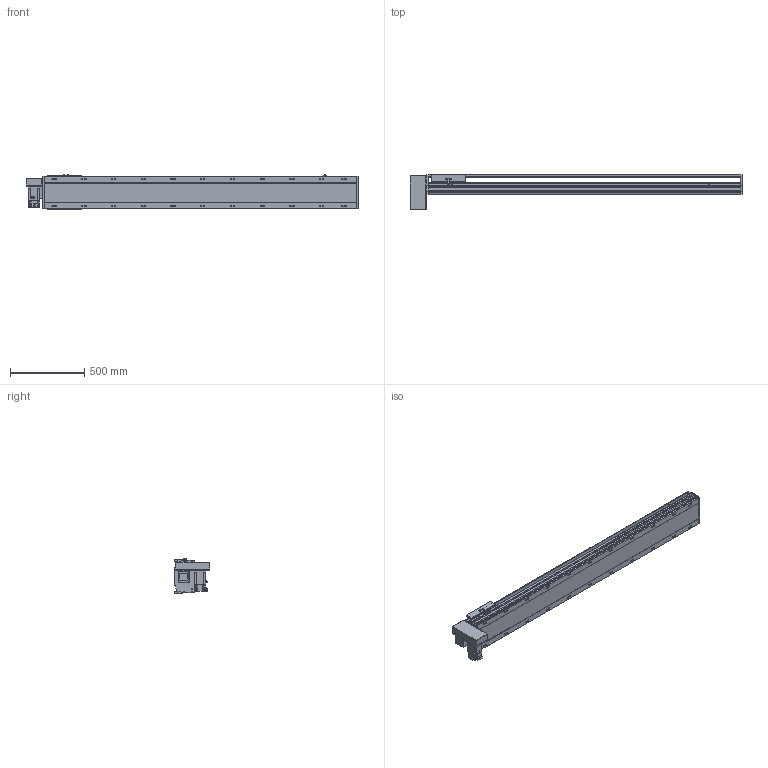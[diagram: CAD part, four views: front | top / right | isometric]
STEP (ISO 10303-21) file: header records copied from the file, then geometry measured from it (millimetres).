
FILE_DESCRIPTION(/* description */ ('STEP AP214'),/* implementation_level */ '2;1');
FILE_NAME(/* name */ 'PBS220-P40-S1750-RD-T75-C1-N(0)',/* time_stamp */ '2022-06-13T02:44:17+02:00',/* author */ ('License CC BY-ND 4.0'),/* organization */ ('CADENAS'),/* preprocessor_version */ 'ST-DEVELOPER v18.102',/* originating_system */ 'PARTsolutions',/* authorisation */ ' ');
FILE_SCHEMA (('AUTOMOTIVE_DESIGN {1 0 10303 214 3 1 1}'));
Length unit declared in the file: millimetre
Products named in the file (7): PBS220-P40-S1750-RD-T75-C1-N(0); PBS220_sensor; PBS220_plant; PBS220_sliser; T75-p1; PBS220T-RD_motors; PBS220-S1750()_body
Assembly tree (8 placements, depth 2):
  PBS220-P40-S1750-RD-T75-C1-N(0)
    PBS220_sensor  x3
    PBS220_plant
    PBS220_sliser
    T75-p1
    PBS220T-RD_motors
    PBS220-S1750()_body
Bounding box: 2234 x 239 x 238.5 mm (x, y, z)
Volume: 31559147.5 mm3; surface area: 2959468 mm2
Topology: 8 solids, 8 shells, 950 faces, 2480 edges, 1612 vertices
Faces by surface type: plane 610, cylinder 294, cone 46
Full cylindrical faces by diameter (mm): 2.013 x4, 4.5 x14, 4.917 x4, 6 x7, 6.647 x8, 8 x10, 8.376 x22, 8.5 x22, 10 x6, 14 x22, 38 x2, 40 x1, 70 x1
Entity records: 26565 total; most frequent: CARTESIAN_POINT 4690, DIRECTION 4617, ORIENTED_EDGE 4214, EDGE_CURVE 2107, AXIS2_PLACEMENT_3D 1633, VERTEX_POINT 1464, LINE 1351, VECTOR 1351
